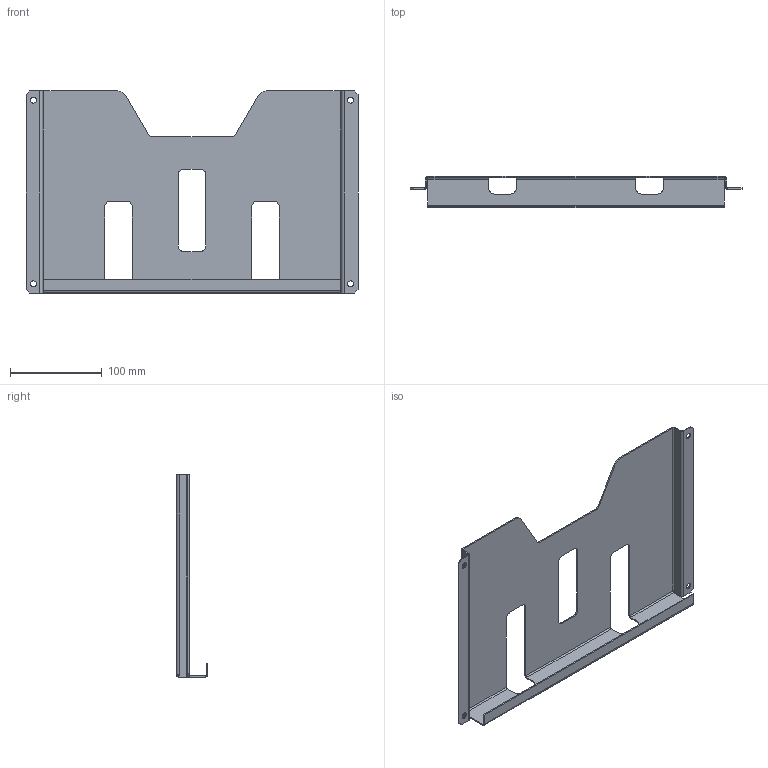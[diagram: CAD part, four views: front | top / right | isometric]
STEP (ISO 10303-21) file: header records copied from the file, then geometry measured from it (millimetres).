
FILE_DESCRIPTION (( 'STEP AP203' ), '1' );
FILE_NAME ('DP 50 M Êàðìàí äëÿ äîêóìåíòàöèè v2.STEP', '2021-01-19T13:12:14', ( '' ), ( '' ), 'SwSTEP 2.0', 'SolidWorks 2018', '' );
FILE_SCHEMA (( 'CONFIG_CONTROL_DESIGN' ));
Length unit declared in the file: millimetre
Products named in the file (1): DP 50 M Êàðìàí äëÿ äîêóìåíòàöèè v2
Bounding box: 361.2 x 34 x 220 mm (x, y, z)
Volume: 115650.5 mm3; surface area: 168332.1 mm2
Topology: 1 solids, 1 shells, 104 faces, 270 edges, 164 vertices
Faces by surface type: plane 64, cylinder 40
Entity records: 3235 total; most frequent: DIRECTION 560, ORIENTED_EDGE 540, CARTESIAN_POINT 539, EDGE_CURVE 270, LINE 190, VECTOR 190, AXIS2_PLACEMENT_3D 185, VERTEX_POINT 164
